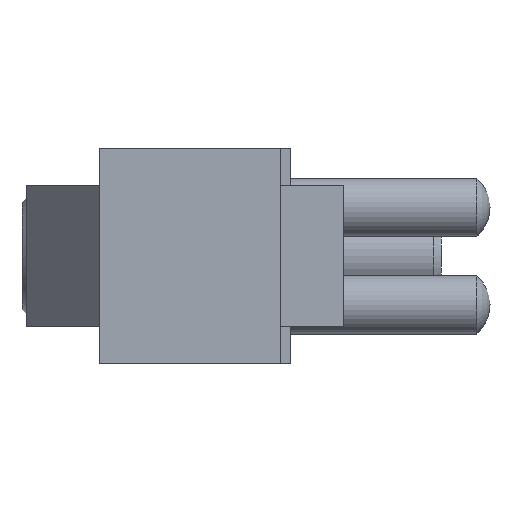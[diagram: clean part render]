
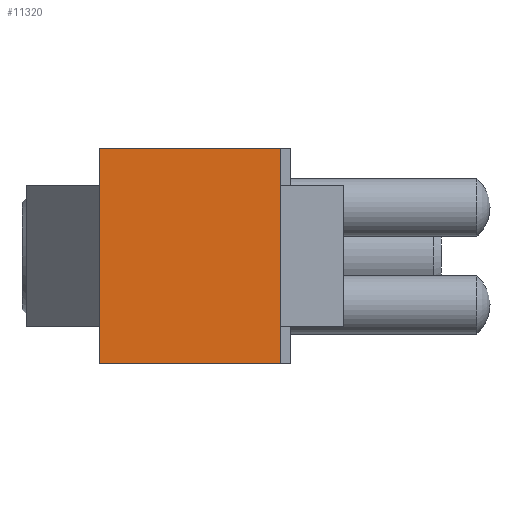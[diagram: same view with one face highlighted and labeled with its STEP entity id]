
A CAD part, left-side view. The second image highlights one B-rep face of the part: STEP entity #11320.
In plain terms, the highlighted planar face has unit normal (-1, 0, 0).
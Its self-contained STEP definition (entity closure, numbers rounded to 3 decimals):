
#1500=ORIENTED_EDGE('',*,*,#4426,.T.);
#1501=ORIENTED_EDGE('',*,*,#4427,.F.);
#1502=ORIENTED_EDGE('',*,*,#4428,.F.);
#1503=ORIENTED_EDGE('',*,*,#4429,.T.);
#4426=EDGE_CURVE('',#5730,#5731,#7130,.T.);
#4427=EDGE_CURVE('',#5732,#5731,#7131,.T.);
#4428=EDGE_CURVE('',#5733,#5732,#7132,.T.);
#4429=EDGE_CURVE('',#5733,#5730,#7133,.T.);
#5730=VERTEX_POINT('',#17226);
#5731=VERTEX_POINT('',#17227);
#5732=VERTEX_POINT('',#17229);
#5733=VERTEX_POINT('',#17231);
#7130=LINE('',#17225,#8658);
#7131=LINE('',#17228,#8659);
#7132=LINE('',#17230,#8660);
#7133=LINE('',#17232,#8661);
#8658=VECTOR('',#14003,1000.);
#8659=VECTOR('',#14004,1000.);
#8660=VECTOR('',#14005,1000.);
#8661=VECTOR('',#14006,1000.);
#9534=EDGE_LOOP('',(#1500,#1501,#1502,#1503));
#10152=FACE_BOUND('',#9534,.T.);
#10770=PLANE('',#12007);
#11320=ADVANCED_FACE('',(#10152),#10770,.F.);
#12007=AXIS2_PLACEMENT_3D('',#17224,#14001,#14002);
#14001=DIRECTION('',(1.,0.,0.));
#14002=DIRECTION('',(0.,0.,-1.));
#14003=DIRECTION('',(0.,-1.,0.));
#14004=DIRECTION('',(0.,0.,-1.));
#14005=DIRECTION('',(0.,-1.,0.));
#14006=DIRECTION('',(0.,0.,-1.));
#17224=CARTESIAN_POINT('',(0.,19.5,11.));
#17225=CARTESIAN_POINT('',(0.,19.5,-11.));
#17226=CARTESIAN_POINT('',(0.,19.5,-11.));
#17227=CARTESIAN_POINT('',(0.,1.,-11.));
#17228=CARTESIAN_POINT('',(0.,1.,11.));
#17229=CARTESIAN_POINT('',(0.,1.,11.));
#17230=CARTESIAN_POINT('',(0.,19.5,11.));
#17231=CARTESIAN_POINT('',(0.,19.5,11.));
#17232=CARTESIAN_POINT('',(0.,19.5,11.));
